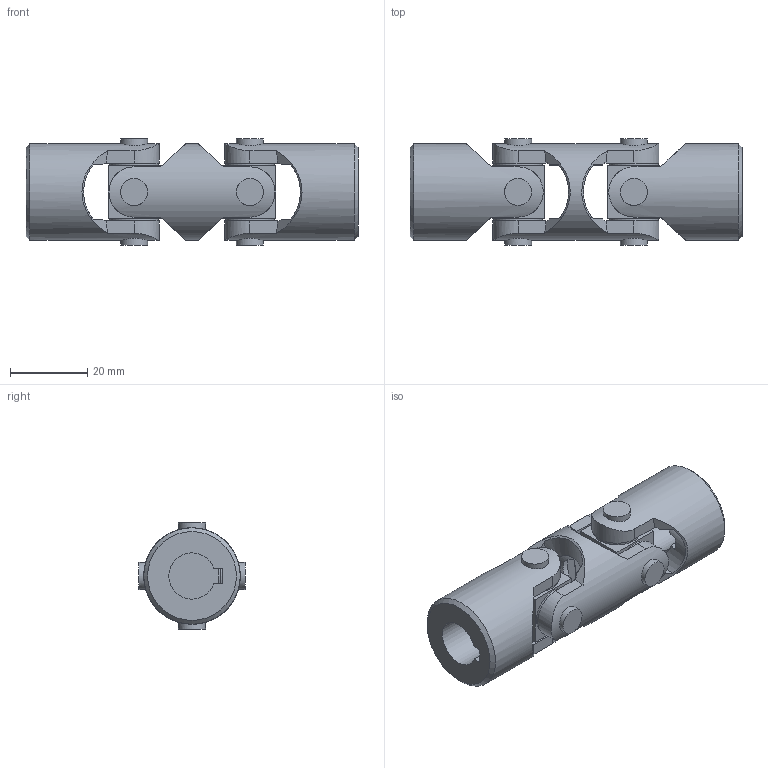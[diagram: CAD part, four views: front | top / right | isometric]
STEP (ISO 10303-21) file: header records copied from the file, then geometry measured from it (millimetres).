
FILE_DESCRIPTION(/* description */ (''),/* implementation_level */ '2;1');
FILE_NAME(/* name */ '\\SRV2016\Societa\Stefano\Disegni 3D\0Catalogo 3D\14Doppi XD\Ø25_04XD_SX0D122C.stp',/* time_stamp */ '2023-05-15T08:42:10+02:00',/* author */ ('acquisti'),/* organization */ (''),/* preprocessor_version */ 'ST-DEVELOPER v15.6',/* originating_system */ 'Autodesk Inventor 2015',/* authorisation */ '');
FILE_SCHEMA (('AUTOMOTIVE_DESIGN { 1 0 10303 214 3 1 1 }'));
Length unit declared in the file: millimetre
Products named in the file (4): 04X MOD; 04X SFE; 04X MOC; Ø25_04XD_SX0D1200
Assembly tree (5 placements, depth 2):
  Ø25_04XD_SX0D1200
    04X MOD
    04X SFE  x2
    04X MOC  x2
Bounding box: 86 x 27.5 x 27.5 mm (x, y, z)
Volume: 28164.5 mm3; surface area: 13799.1 mm2
Topology: 5 solids, 5 shells, 127 faces, 329 edges, 224 vertices
Faces by surface type: plane 68, cylinder 33, cone 22, torus 4
Full cylindrical faces by diameter (mm): 7 x8, 12.5 x8, 13 x2, 25 x3
Entity records: 3108 total; most frequent: CARTESIAN_POINT 1146, ORIENTED_EDGE 392, DIRECTION 365, EDGE_CURVE 196, AXIS2_PLACEMENT_3D 154, VERTEX_POINT 144, EDGE_LOOP 116, FACE_OUTER_BOUND 85
